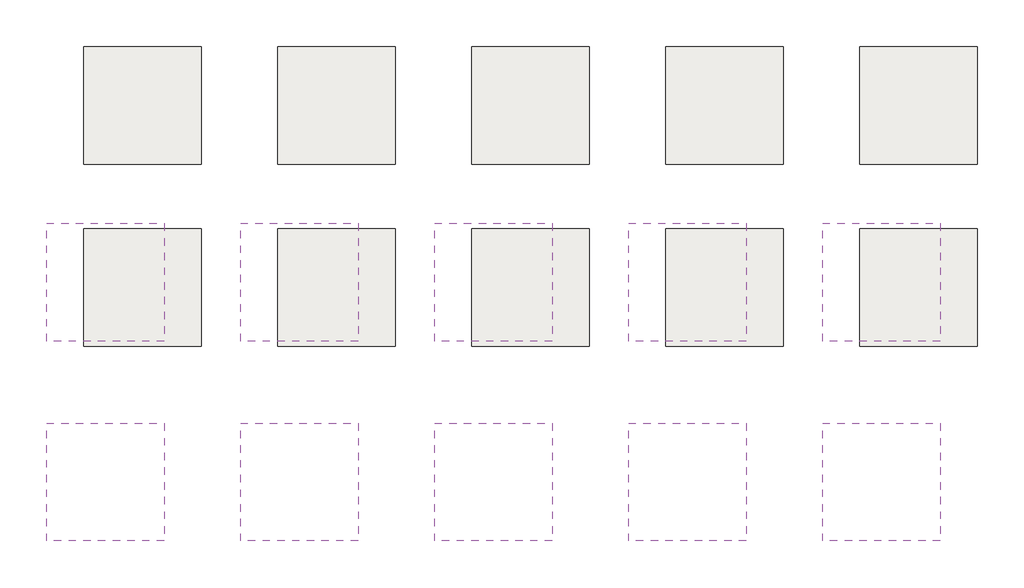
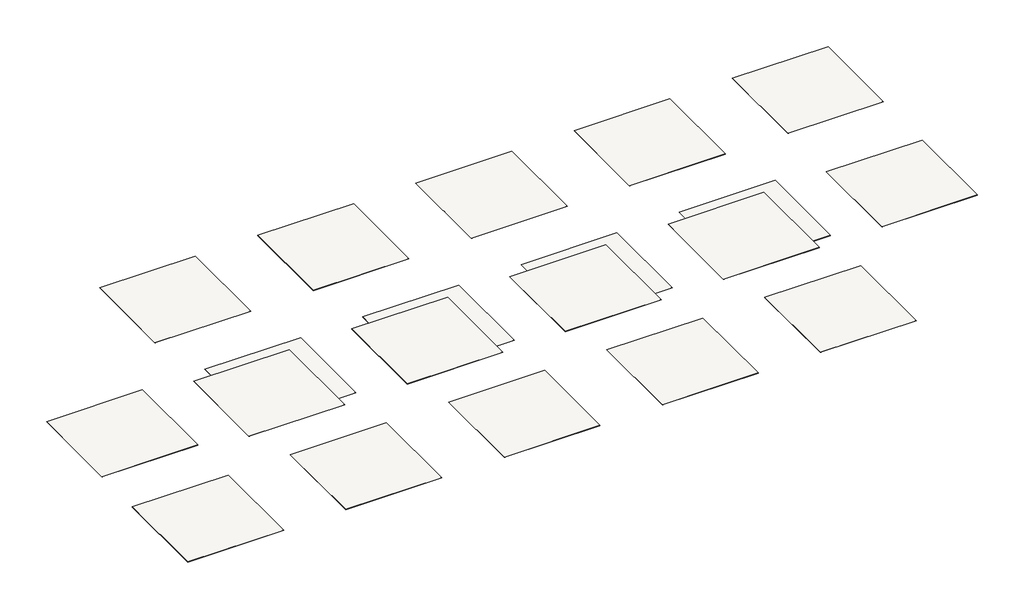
# One storey: 20 slabs.
"""IFC4 building model written with IfcOpenShell, lengths in millimetres."""

from ifc_helpers import new_model, si_unit, frame, origin, place, context, project, spatial, polyline, outline, extrude, element, save

model = new_model("IFC4")

# Units and contexts
model_context = context("Model", 3, world=origin())
ifc_project = project(units=[si_unit("LENGTHUNIT", "METRE", prefix="MILLI")], contexts=[model_context])

# Site, building, storey
site = spatial("IfcSite", under=ifc_project)
building = spatial("IfcBuilding", under=site)
storey = spatial("IfcBuildingStorey", under=building, Name="Tarkett Brasil - Ambienta Make It 01", Elevation=0.0)

# Slabs
placement = place(None, origin())
element("IfcSlab", 1, ObjectType="Tarkett Brasil - Vinyl - Ambienta Stone - Beige Porcelain 24174115", at=placement, inside=storey, context=model_context, shape_type="SweptSolid", body=[
    extrude(outline(polyline([(-2402.441548, 1704.6365704), (-2402.441548, -295.3634296), (-4402.441548, -295.3634296), (-4402.441548, 1704.6365704), (-2402.441548, 1704.6365704)])), frame((0.0, 0.0, -3.0), z_axis=(0.0, 0.0, 1.0), x_axis=(1.0, 0.0, 0.0)), (0.0, 0.0, 1.0), 3.0),
])
element("IfcSlab", 2, ObjectType="Tarkett Brasil - Vinyl - Ambienta Stone - Beige Porcelain 24175115", at=placement, inside=storey, context=model_context, shape_type="SweptSolid", body=[
    extrude(outline(polyline([(897.558452, 1704.6365704), (897.558452, -295.3634296), (-1102.441548, -295.3634296), (-1102.441548, 1704.6365704), (897.558452, 1704.6365704)])), frame((0.0, 0.0, -3.0), z_axis=(0.0, 0.0, 1.0), x_axis=(1.0, 0.0, 0.0)), (0.0, 0.0, 1.0), 3.0),
])
element("IfcSlab", 3, ObjectType="Tarkett Brasil - Vinyl - Ambienta Stone - Dark Porcelain 24174111", at=placement, inside=storey, context=model_context, shape_type="SweptSolid", body=[
    extrude(outline(polyline([(4197.558452, 1704.6365704), (4197.558452, -295.3634296), (2197.558452, -295.3634296), (2197.558452, 1704.6365704), (4197.558452, 1704.6365704)])), frame((0.0, 0.0, -3.0), z_axis=(0.0, 0.0, 1.0), x_axis=(1.0, 0.0, 0.0)), (0.0, 0.0, 1.0), 3.0),
])
element("IfcSlab", 4, ObjectType="Tarkett Brasil - Vinyl - Ambienta Stone - Dark Porcelain 24175111", at=placement, inside=storey, context=model_context, shape_type="SweptSolid", body=[
    extrude(outline(polyline([(7497.558452, 1704.6365704), (7497.558452, -295.3634296), (5497.558452, -295.3634296), (5497.558452, 1704.6365704), (7497.558452, 1704.6365704)])), frame((0.0, 0.0, -3.0), z_axis=(0.0, 0.0, 1.0), x_axis=(1.0, 0.0, 0.0)), (0.0, 0.0, 1.0), 3.0),
])
element("IfcSlab", 5, ObjectType="Tarkett Brasil - Vinyl - Ambienta Stone - Deep Metal 24175683", at=placement, inside=storey, context=model_context, shape_type="SweptSolid", body=[
    extrude(outline(polyline([(-2402.441548, -1395.3634296), (-2402.441548, -3395.3634296), (-4402.441548, -3395.3634296), (-4402.441548, -1395.3634296), (-2402.441548, -1395.3634296)])), frame((0.0, 0.0, -3.0), z_axis=(0.0, 0.0, 1.0), x_axis=(1.0, 0.0, 0.0)), (0.0, 0.0, 1.0), 3.0),
])
element("IfcSlab", 6, ObjectType="Tarkett Brasil - Vinyl - Ambienta Stone - Galena 24175517", at=placement, inside=storey, context=model_context, shape_type="SweptSolid", body=[
    extrude(outline(polyline([(897.558452, -1395.3634296), (897.558452, -3395.3634296), (-1102.441548, -3395.3634296), (-1102.441548, -1395.3634296), (897.558452, -1395.3634296)])), frame((0.0, 0.0, -3.0), z_axis=(0.0, 0.0, 1.0), x_axis=(1.0, 0.0, 0.0)), (0.0, 0.0, 1.0), 3.0),
])
element("IfcSlab", 7, ObjectType="Tarkett Brasil - Vinyl - Ambienta Stone - Grafito Porcelain 24174124", at=placement, inside=storey, context=model_context, shape_type="SweptSolid", body=[
    extrude(outline(polyline([(4197.558452, -1395.3634296), (4197.558452, -3395.3634296), (2197.558452, -3395.3634296), (2197.558452, -1395.3634296), (4197.558452, -1395.3634296)])), frame((0.0, 0.0, -3.0), z_axis=(0.0, 0.0, 1.0), x_axis=(1.0, 0.0, 0.0)), (0.0, 0.0, 1.0), 3.0),
])
element("IfcSlab", 8, ObjectType="Tarkett Brasil - Vinyl - Ambienta Stone - Grafito Porcelain 24175124", at=placement, inside=storey, context=model_context, shape_type="SweptSolid", body=[
    extrude(outline(polyline([(7497.558452, -1395.3634296), (7497.558452, -3395.3634296), (5497.558452, -3395.3634296), (5497.558452, -1395.3634296), (7497.558452, -1395.3634296)])), frame((0.0, 0.0, -3.0), z_axis=(0.0, 0.0, 1.0), x_axis=(1.0, 0.0, 0.0)), (0.0, 0.0, 1.0), 3.0),
])
element("IfcSlab", 9, ObjectType="Tarkett Brasil - Vinyl - Ambienta Stone - Iron Ore 24175560", at=placement, inside=storey, context=model_context, shape_type="SweptSolid", body=[
    extrude(outline(polyline([(10797.558452, -1395.3634296), (10797.558452, -3395.3634296), (8797.558452, -3395.3634296), (8797.558452, -1395.3634296), (10797.558452, -1395.3634296)])), frame((0.0, 0.0, -3.0), z_axis=(0.0, 0.0, 1.0), x_axis=(1.0, 0.0, 0.0)), (0.0, 0.0, 1.0), 3.0),
])
element("IfcSlab", 10, ObjectType="Tarkett Brasil - Vinyl - Ambienta Stone - Light Porcelain 24174113", at=placement, inside=storey, context=model_context, shape_type="SweptSolid", body=[
    extrude(outline(polyline([(264.5226814, -1305.799045), (264.5226814, -3305.799045), (-1735.4773186, -3305.799045), (-1735.4773186, -1305.799045), (264.5226814, -1305.799045)])), frame((0.0, 0.0, 4997.0), z_axis=(0.0, 0.0, 1.0), x_axis=(1.0, 0.0, 0.0)), (0.0, 0.0, 1.0), 3.0),
])
element("IfcSlab", 11, ObjectType="Tarkett Brasil - Vinyl - Ambienta Stone - Light Porcelain 24175113", at=placement, inside=storey, context=model_context, shape_type="SweptSolid", body=[
    extrude(outline(polyline([(3564.5226814, -1305.799045), (3564.5226814, -3305.799045), (1564.5226814, -3305.799045), (1564.5226814, -1305.799045), (3564.5226814, -1305.799045)])), frame((0.0, 0.0, 4997.0), z_axis=(0.0, 0.0, 1.0), x_axis=(1.0, 0.0, 0.0)), (0.0, 0.0, 1.0), 3.0),
])
element("IfcSlab", 12, ObjectType="Tarkett Brasil - Vinyl - Ambienta Stone - Murano 24175773", at=placement, inside=storey, context=model_context, shape_type="SweptSolid", body=[
    extrude(outline(polyline([(6864.5226814, -1305.799045), (6864.5226814, -3305.799045), (4864.5226814, -3305.799045), (4864.5226814, -1305.799045), (6864.5226814, -1305.799045)])), frame((0.0, 0.0, 4997.0), z_axis=(0.0, 0.0, 1.0), x_axis=(1.0, 0.0, 0.0)), (0.0, 0.0, 1.0), 3.0),
])
element("IfcSlab", 13, ObjectType="Tarkett Brasil - Vinyl - Ambienta Stone - Rock 24174679", at=placement, inside=storey, context=model_context, shape_type="SweptSolid", body=[
    extrude(outline(polyline([(10164.5226814, -1305.799045), (10164.5226814, -3305.799045), (8164.5226814, -3305.799045), (8164.5226814, -1305.799045), (10164.5226814, -1305.799045)])), frame((0.0, 0.0, 4997.0), z_axis=(0.0, 0.0, 1.0), x_axis=(1.0, 0.0, 0.0)), (0.0, 0.0, 1.0), 3.0),
])
element("IfcSlab", 14, ObjectType="Tarkett Brasil - Vinyl - Ambienta Stone - Sandstone 24174616", at=placement, inside=storey, context=model_context, shape_type="SweptSolid", body=[
    extrude(outline(polyline([(-3035.4773186, -4705.799045), (-3035.4773186, -6705.799045), (-5035.4773186, -6705.799045), (-5035.4773186, -4705.799045), (-3035.4773186, -4705.799045)])), frame((0.0, 0.0, 4997.0), z_axis=(0.0, 0.0, 1.0), x_axis=(1.0, 0.0, 0.0)), (0.0, 0.0, 1.0), 3.0),
])
element("IfcSlab", 15, ObjectType="Tarkett Brasil - Vinyl - Ambienta Stone - Steel 24174680", at=placement, inside=storey, context=model_context, shape_type="SweptSolid", body=[
    extrude(outline(polyline([(264.5226814, -4705.799045), (264.5226814, -6705.799045), (-1735.4773186, -6705.799045), (-1735.4773186, -4705.799045), (264.5226814, -4705.799045)])), frame((0.0, 0.0, 4997.0), z_axis=(0.0, 0.0, 1.0), x_axis=(1.0, 0.0, 0.0)), (0.0, 0.0, 1.0), 3.0),
])
element("IfcSlab", 16, ObjectType="Tarkett Brasil - Vinyl - Ambienta Stone - Titanium 24174681", at=placement, inside=storey, context=model_context, shape_type="SweptSolid", body=[
    extrude(outline(polyline([(3564.5226814, -4705.799045), (3564.5226814, -6705.799045), (1564.5226814, -6705.799045), (1564.5226814, -4705.799045), (3564.5226814, -4705.799045)])), frame((0.0, 0.0, 4997.0), z_axis=(0.0, 0.0, 1.0), x_axis=(1.0, 0.0, 0.0)), (0.0, 0.0, 1.0), 3.0),
])
element("IfcSlab", 17, ObjectType="Tarkett Brasil - Vinyl - Ambienta Stone - Titanium 24175681", at=placement, inside=storey, context=model_context, shape_type="SweptSolid", body=[
    extrude(outline(polyline([(6864.5226814, -4705.799045), (6864.5226814, -6705.799045), (4864.5226814, -6705.799045), (4864.5226814, -4705.799045), (6864.5226814, -4705.799045)])), frame((0.0, 0.0, 4997.0), z_axis=(0.0, 0.0, 1.0), x_axis=(1.0, 0.0, 0.0)), (0.0, 0.0, 1.0), 3.0),
])
element("IfcSlab", 18, ObjectType="Tarkett Brasil - Vinyl - Ambienta Stone - Lido 24175715", at=placement, inside=storey, context=model_context, shape_type="SweptSolid", body=[
    extrude(outline(polyline([(-3035.4773186, -1305.799045), (-3035.4773186, -3305.799045), (-5035.4773186, -3305.799045), (-5035.4773186, -1305.799045), (-3035.4773186, -1305.799045)])), frame((0.0, 0.0, 4997.0), z_axis=(0.0, 0.0, 1.0), x_axis=(1.0, 0.0, 0.0)), (0.0, 0.0, 1.0), 3.0),
])
element("IfcSlab", 19, ObjectType="Tarkett Brasil - Vinyl - Ambienta Stone - Veneza 24175564", at=placement, inside=storey, context=model_context, shape_type="SweptSolid", body=[
    extrude(outline(polyline([(10164.5226814, -4705.799045), (10164.5226814, -6705.799045), (8164.5226814, -6705.799045), (8164.5226814, -4705.799045), (10164.5226814, -4705.799045)])), frame((0.0, 0.0, 4997.0), z_axis=(0.0, 0.0, 1.0), x_axis=(1.0, 0.0, 0.0)), (0.0, 0.0, 1.0), 3.0),
])
element("IfcSlab", 20, ObjectType="Tarkett Brasil - Vinyl - Ambienta Stone - Deep Metal 24174683", at=placement, inside=storey, context=model_context, shape_type="SweptSolid", body=[
    extrude(outline(polyline([(10797.558452, 1704.6365704), (10797.558452, -295.3634296), (8797.558452, -295.3634296), (8797.558452, 1704.6365704), (10797.558452, 1704.6365704)])), frame((0.0, 0.0, -3.0), z_axis=(0.0, 0.0, 1.0), x_axis=(1.0, 0.0, 0.0)), (0.0, 0.0, 1.0), 3.0),
])

save(model, "model.ifc")
